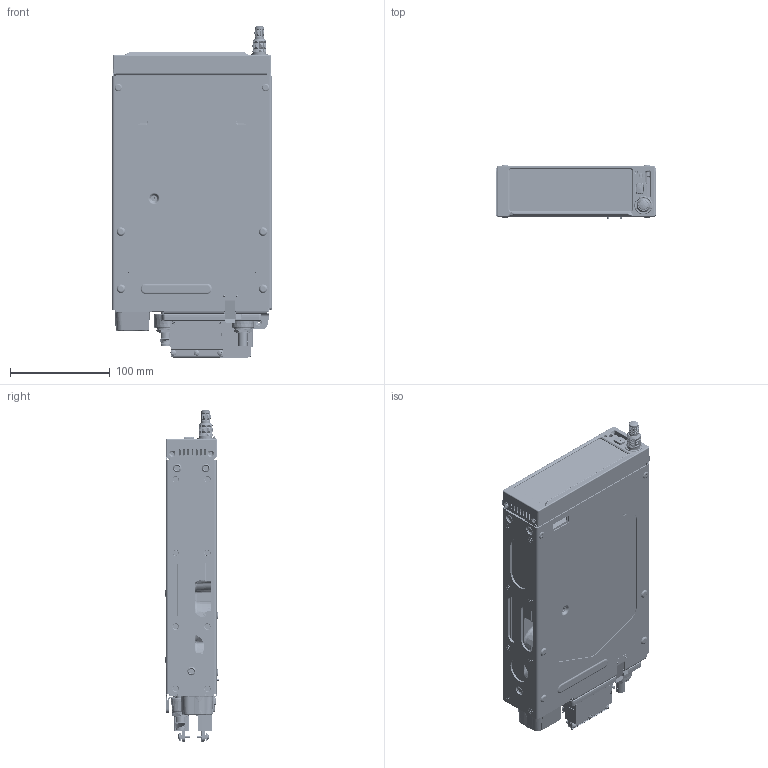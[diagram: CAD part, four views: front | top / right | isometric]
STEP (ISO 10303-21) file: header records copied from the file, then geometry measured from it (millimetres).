
FILE_DESCRIPTION (( 'STEP AP203' ), '1' );
FILE_NAME ('015-04956-xx_with_Install_Rack.STEP', '2019-07-19T23:44:21', ( '' ), ( '' ), 'SwSTEP 2.0', 'SolidWorks 2016', '' );
FILE_SCHEMA (( 'CONFIG_CONTROL_DESIGN' ));
Length unit declared in the file: millimetre
Products named in the file (80): 115-03116-10; 115-03116-00; 015-04994-XX_With Dsubs; 470-00677-00; 330-00053-01-nut; 125-00006-00; 015-04956-xx; 015-04379-XX; 145-02928-00; 115-02698-00; 115-03127-00; 115-00500-XX_115-00500-03; 211-00037-00; 115-03127-01; 015-00950-XX_ref_011-00950-03; 211-6XXXX-XX_211-60234-10; 330-00053-01_330-00053-01; 440-00263-20; 211-60234-08_-08; 210-00043-00; 430-00054-xx; 145-02928-01_Assembly version; 012-03709-00; 330-00070-06_GNC 355 (Straight); 115-00499-XX_37-50-99; 330-00079-01; 214-00033-XX_214-00033-01; 115-03127-02; 125-00053-00; 234-00023-04; 011-00610-00; 325-00304-00_310-00009-00_Drawing; 212-00022-00_212-00022-00; 330-00070-10; 145-02928-01_PSA; 430-00054-xx_Core only; 330-00185-xx_330-00185-44; 145-03168-00; 330-00053-02; 015-00950-XX_ref_011-00950-02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
Assembly tree (129 placements, depth 6):
  325-00304-00_310-00009-00_Drawing
  015-04956-xx_with_Install_Rack
    015-04956-xx
      015-04379-XX
        440-00263-20
          440-00263-10_LOCA Folded Flexes
            470-00677-00
          125-00480-XX_-20 Black With GARMIN Logo
        115-02698-00
          115-02698-00
          210-00066-XX_02  x2
        115-02699-00
          115-02699-00
          233-00233-01  x2
          210-00066-XX_02  x2
        414-00247-00_WITH ARTWORK
        430-00055-00_-00
          430-00055-01_Core only
          430-00055-01_Overmold only
          234-00023-06
        430-00054-xx
          430-00054-xx_Core only
          430-00054-xx_Overmold only
          234-00023-04
      125-00570-XX_-10 With Secondaries
      012-03709-00
        330-00063-62_CC
      115-03116-10
        115-03116-00
        011-00610-00
          125-00053-00
          125-00006-00
          212-20004-00  x2
          211-00027-01
          211-00037-00  x2
          233-00009-00
          210-00043-00
        211-63234-09  x4
        214-00033-XX_214-00033-01  x2
        145-03168-00
          145-03168-00
          145-03168-00_Adhesive
      325-00304-XX_For Drawing
        330-00070-10
        330-00079-01
      325-00392-02
        330-00070-06_GNC 355 (Straight)
        330-00079-01
      012-01594-10
        330-00063-xx_330-00063-44
      115-03117-10
        115-03117-00
        145-02928-01_Assembly version  x2
          145-02928-00
          145-02928-01_PSA
    115-03127-00
      115-03127-01
      115-03127-02
      234-00064-00
      230-00029-xx_230-00029-00  x2
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Bounding box: 160.02 x 53.62 x 332.13 mm (x, y, z)
Volume: 465074.3 mm3; surface area: 601463.1 mm2
Topology: 114 solids, 114 shells, 16142 faces, 37838 edges, 22646 vertices
Faces by surface type: plane 5751, cylinder 4147, cone 2854, bspline 2248, torus 1030, sphere 112
Entity records: 533816 total; most frequent: CARTESIAN_POINT 201012, ORIENTED_EDGE 70104, DIRECTION 62697, EDGE_CURVE 35052, AXIS2_PLACEMENT_3D 24368, VERTEX_POINT 21062, EDGE_LOOP 16352, ADVANCED_FACE 14948
